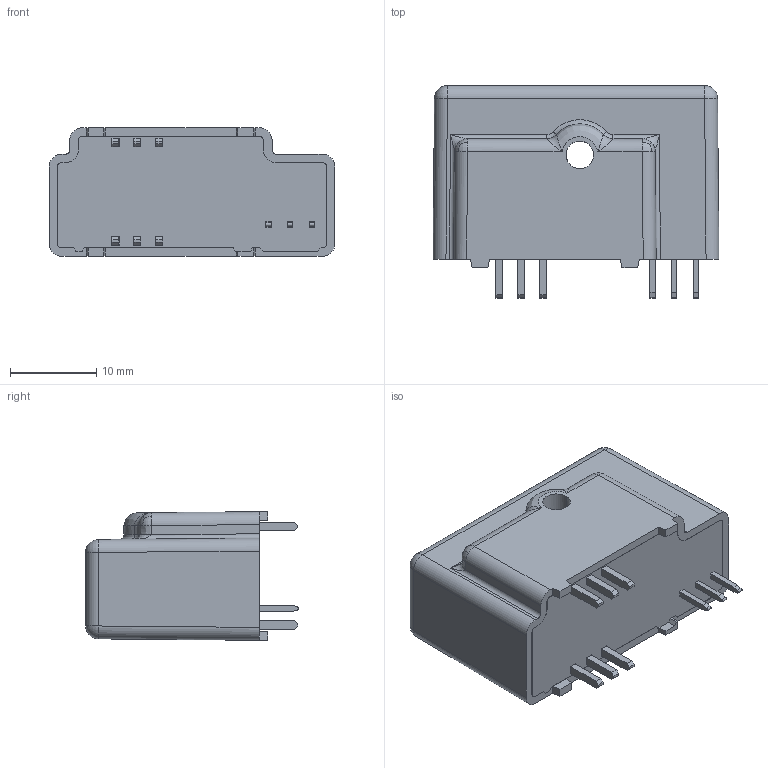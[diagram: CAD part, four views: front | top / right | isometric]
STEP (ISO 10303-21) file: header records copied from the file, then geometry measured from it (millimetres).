
FILE_DESCRIPTION(('Creo Elements/Direct Modeling STEP Export'),'2;1');
FILE_NAME('LAH_25_NP_SP3.stp','2014-01-08T14:42:09',(''),(''),'Creo Elements/Direct Modeling STEP processor for AP214 (Solid Model)','Creo Elements/Direct Modeling 17.0E 05-Feb-2012 (C) Parametric Technology GmbH','');
FILE_SCHEMA(('AUTOMOTIVE_DESIGN { 1 0 10303 214 1 1 1 1 }'));
Length unit declared in the file: millimetre
Products named in the file (2): boitier_with_holes_blackbox
Assembly tree (1 placements, depth 2):
  boitier_with_holes_blackbox
    boitier_with_holes_blackbox
Bounding box: 33.2 x 24.7 x 14.95 mm (x, y, z)
Volume: 8595.9 mm3; surface area: 2957.9 mm2
Topology: 1 solids, 1 shells, 310 faces, 817 edges, 526 vertices
Faces by surface type: plane 232, cylinder 43, bspline 18, extrusion 9, torus 4, sphere 4
Entity records: 12645 total; most frequent: CARTESIAN_POINT 4791, ORIENTED_EDGE 1618, DIRECTION 1319, EDGE_CURVE 809, VECTOR 657, LINE 648, VERTEX_POINT 526, EDGE_LOOP 337
